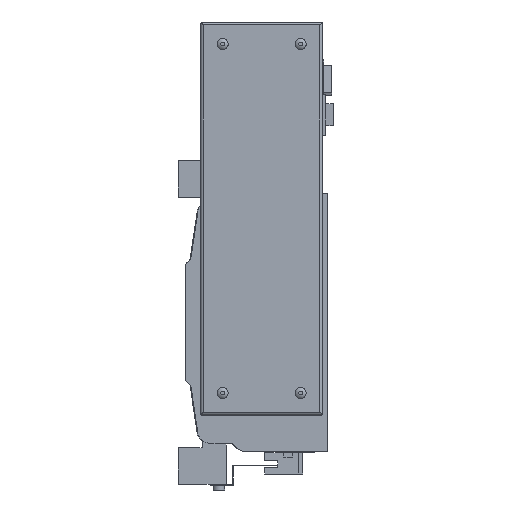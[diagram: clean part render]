
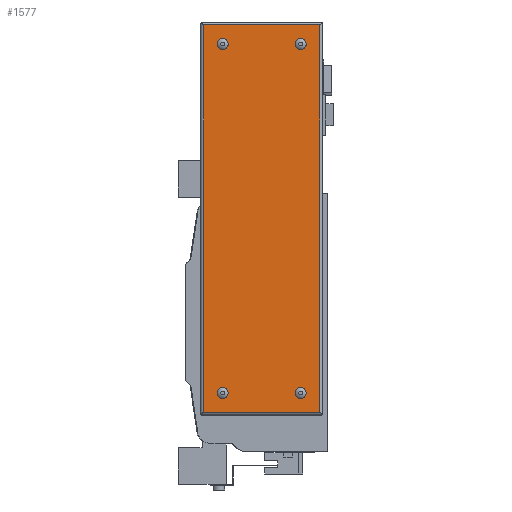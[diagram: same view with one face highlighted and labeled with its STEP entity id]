
A CAD part, left-side view. The second image highlights one B-rep face of the part: STEP entity #1577.
In plain terms, the highlighted planar face has unit normal (-1, 0, 0).
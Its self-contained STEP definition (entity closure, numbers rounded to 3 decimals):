
#1577 = ADVANCED_FACE( '', ( #3253, #3254, #3255, #3256, #3257 ), #3258, .F. );
#3253 = FACE_BOUND( '', #5016, .T. );
#3254 = FACE_BOUND( '', #5017, .T. );
#3255 = FACE_BOUND( '', #5018, .T. );
#3256 = FACE_BOUND( '', #5019, .T. );
#3257 = FACE_OUTER_BOUND( '', #5020, .T. );
#3258 = PLANE( '', #5021 );
#5016 = EDGE_LOOP( '', ( #9226 ) );
#5017 = EDGE_LOOP( '', ( #9227 ) );
#5018 = EDGE_LOOP( '', ( #9228 ) );
#5019 = EDGE_LOOP( '', ( #9229 ) );
#5020 = EDGE_LOOP( '', ( #9230, #9231, #9232, #9233 ) );
#5021 = AXIS2_PLACEMENT_3D( '', #9234, #9235, #9236 );
#9226 = ORIENTED_EDGE( '', *, *, #11955, .F. );
#9227 = ORIENTED_EDGE( '', *, *, #11866, .F. );
#9228 = ORIENTED_EDGE( '', *, *, #10298, .F. );
#9229 = ORIENTED_EDGE( '', *, *, #10306, .F. );
#9230 = ORIENTED_EDGE( '', *, *, #11650, .F. );
#9231 = ORIENTED_EDGE( '', *, *, #10291, .F. );
#9232 = ORIENTED_EDGE( '', *, *, #11919, .T. );
#9233 = ORIENTED_EDGE( '', *, *, #11361, .T. );
#9234 = CARTESIAN_POINT( '', ( -66., 0., 0. ) );
#9235 = DIRECTION( '', ( 1., 0., 0. ) );
#9236 = DIRECTION( '', ( 0., 0., -1. ) );
#10291 = EDGE_CURVE( '', #12220, #12223, #12224, .T. );
#10298 = EDGE_CURVE( '', #12235, #12235, #12236, .F. );
#10306 = EDGE_CURVE( '', #12249, #12249, #12250, .F. );
#11361 = EDGE_CURVE( '', #13993, #13991, #13994, .T. );
#11650 = EDGE_CURVE( '', #12223, #13991, #14387, .T. );
#11866 = EDGE_CURVE( '', #14654, #14654, #14655, .F. );
#11919 = EDGE_CURVE( '', #12220, #13993, #14714, .T. );
#11955 = EDGE_CURVE( '', #14756, #14756, #14757, .F. );
#12220 = VERTEX_POINT( '', #15074 );
#12223 = VERTEX_POINT( '', #15077 );
#12224 = LINE( '', #15078, #15079 );
#12235 = VERTEX_POINT( '', #15091 );
#12236 = CIRCLE( '', #15092, 3.7 );
#12249 = VERTEX_POINT( '', #15109 );
#12250 = CIRCLE( '', #15110, 3.7 );
#13991 = VERTEX_POINT( '', #17537 );
#13993 = VERTEX_POINT( '', #17539 );
#13994 = LINE( '', #17540, #17541 );
#14387 = LINE( '', #18099, #18100 );
#14654 = VERTEX_POINT( '', #18474 );
#14655 = CIRCLE( '', #18475, 3.7 );
#14714 = LINE( '', #18554, #18555 );
#14756 = VERTEX_POINT( '', #18610 );
#14757 = CIRCLE( '', #18611, 3.7 );
#15074 = CARTESIAN_POINT( '', ( -66., 84.5, 202. ) );
#15077 = CARTESIAN_POINT( '', ( -66., 5.5, 202. ) );
#15078 = CARTESIAN_POINT( '', ( -66., 267., 202. ) );
#15079 = VECTOR( '', #18903, 1000. );
#15091 = CARTESIAN_POINT( '', ( -66., 71.5, 185.3 ) );
#15092 = AXIS2_PLACEMENT_3D( '', #18917, #18918, #18919 );
#15109 = CARTESIAN_POINT( '', ( -66., 71.5, -51.7 ) );
#15110 = AXIS2_PLACEMENT_3D( '', #18927, #18928, #18929 );
#17537 = CARTESIAN_POINT( '', ( -66., 5.5, -61. ) );
#17539 = CARTESIAN_POINT( '', ( -66., 84.5, -61. ) );
#17540 = CARTESIAN_POINT( '', ( -66., 267., -61. ) );
#17541 = VECTOR( '', #20120, 1000. );
#18099 = CARTESIAN_POINT( '', ( -66., 5.5, 267. ) );
#18100 = VECTOR( '', #20397, 1000. );
#18474 = CARTESIAN_POINT( '', ( -66., 18.5, -51.7 ) );
#18475 = AXIS2_PLACEMENT_3D( '', #20577, #20578, #20579 );
#18554 = CARTESIAN_POINT( '', ( -66., 84.5, 267. ) );
#18555 = VECTOR( '', #20612, 1000. );
#18610 = CARTESIAN_POINT( '', ( -66., 18.5, 185.3 ) );
#18611 = AXIS2_PLACEMENT_3D( '', #20632, #20633, #20634 );
#18903 = DIRECTION( '', ( 0., -1., 0. ) );
#18917 = CARTESIAN_POINT( '', ( -66., 71.5, 189. ) );
#18918 = DIRECTION( '', ( 1., 0., 0. ) );
#18919 = DIRECTION( '', ( 0., 0., -1. ) );
#18927 = CARTESIAN_POINT( '', ( -66., 71.5, -48. ) );
#18928 = DIRECTION( '', ( 1., 0., 0. ) );
#18929 = DIRECTION( '', ( 0., 0., -1. ) );
#20120 = DIRECTION( '', ( 0., -1., 0. ) );
#20397 = DIRECTION( '', ( 0., 0., -1. ) );
#20577 = CARTESIAN_POINT( '', ( -66., 18.5, -48. ) );
#20578 = DIRECTION( '', ( 1., 0., 0. ) );
#20579 = DIRECTION( '', ( 0., 0., -1. ) );
#20612 = DIRECTION( '', ( 0., 0., -1. ) );
#20632 = CARTESIAN_POINT( '', ( -66., 18.5, 189. ) );
#20633 = DIRECTION( '', ( 1., 0., 0. ) );
#20634 = DIRECTION( '', ( 0., 0., -1. ) );
